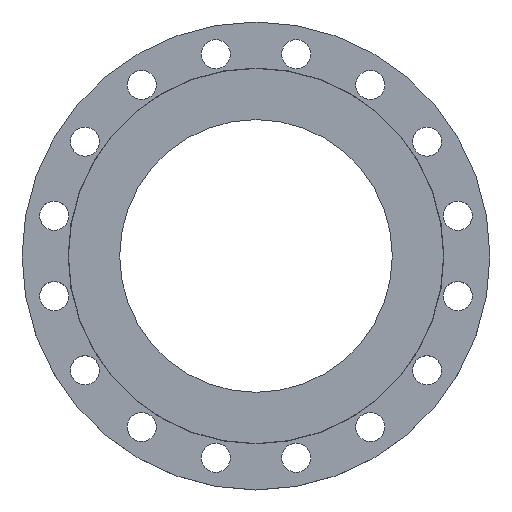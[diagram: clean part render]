
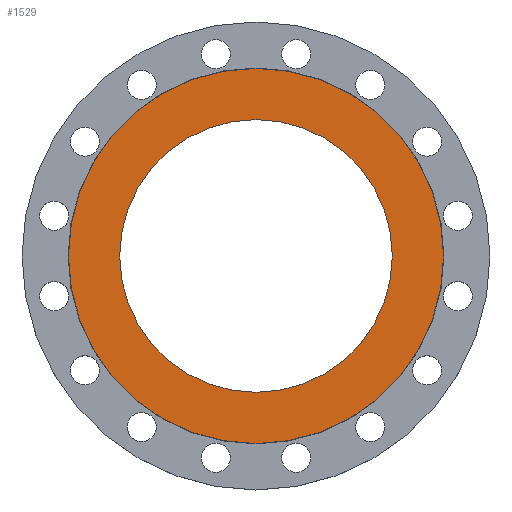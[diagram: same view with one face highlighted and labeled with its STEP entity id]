
A CAD part, top view. The second image highlights one B-rep face of the part: STEP entity #1529.
In plain terms, the highlighted planar face has unit normal (0, 0, 1).
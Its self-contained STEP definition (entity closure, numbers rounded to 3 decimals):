
#6 = DIRECTION ( 'NONE',  ( 1., 0., 0. ) ) ;
#9 = DIRECTION ( 'NONE',  ( 0., 0., 1. ) ) ;
#10 = CARTESIAN_POINT ( 'NONE',  ( 0., 0., 0. ) ) ;
#11 = PLANE ( 'NONE',  #1262 ) ;
#12 = FACE_OUTER_BOUND ( 'NONE', #1091, .T. ) ;
#15 = FACE_BOUND ( 'NONE', #1357, .T. ) ;
#34 = CARTESIAN_POINT ( 'NONE',  ( -232.5, 0., 0. ) ) ;
#41 = CARTESIAN_POINT ( 'NONE',  ( 169., 0., 0. ) ) ;
#75 = EDGE_CURVE ( 'NONE', #1477, #1212, #1118, .T. ) ;
#81 = DIRECTION ( 'NONE',  ( -1., 0., 0. ) ) ;
#84 = DIRECTION ( 'NONE',  ( 0., 0., -1. ) ) ;
#85 = CARTESIAN_POINT ( 'NONE',  ( 232.5, 0., 0. ) ) ;
#87 = CARTESIAN_POINT ( 'NONE',  ( 0., 0., 0. ) ) ;
#244 = CARTESIAN_POINT ( 'NONE',  ( -169., 0., 0. ) ) ;
#282 = EDGE_CURVE ( 'NONE', #1212, #1477, #713, .T. ) ;
#369 = AXIS2_PLACEMENT_3D ( 'NONE', #752, #751, #748 ) ;
#434 = EDGE_CURVE ( 'NONE', #1451, #1494, #536, .T. ) ;
#536 = CIRCLE ( 'NONE', #369, 232.5 ) ;
#555 = CIRCLE ( 'NONE', #1149, 232.5 ) ;
#623 = AXIS2_PLACEMENT_3D ( 'NONE', #948, #947, #946 ) ;
#694 = AXIS2_PLACEMENT_3D ( 'NONE', #833, #832, #831 ) ;
#713 = CIRCLE ( 'NONE', #694, 169. ) ;
#748 = DIRECTION ( 'NONE',  ( -1., 0., 0. ) ) ;
#751 = DIRECTION ( 'NONE',  ( 0., 0., -1. ) ) ;
#752 = CARTESIAN_POINT ( 'NONE',  ( 0., 0., 0. ) ) ;
#831 = DIRECTION ( 'NONE',  ( 1., 0., 0. ) ) ;
#832 = DIRECTION ( 'NONE',  ( 0., 0., 1. ) ) ;
#833 = CARTESIAN_POINT ( 'NONE',  ( 0., 0., 0. ) ) ;
#946 = DIRECTION ( 'NONE',  ( 1., 0., 0. ) ) ;
#947 = DIRECTION ( 'NONE',  ( 0., 0., 1. ) ) ;
#948 = CARTESIAN_POINT ( 'NONE',  ( 0., 0., 0. ) ) ;
#1053 = ORIENTED_EDGE ( 'NONE', *, *, #434, .F. ) ;
#1056 = ORIENTED_EDGE ( 'NONE', *, *, #1362, .F. ) ;
#1091 = EDGE_LOOP ( 'NONE', ( #1056, #1053 ) ) ;
#1118 = CIRCLE ( 'NONE', #623, 169. ) ;
#1149 = AXIS2_PLACEMENT_3D ( 'NONE', #87, #84, #81 ) ;
#1212 = VERTEX_POINT ( 'NONE', #244 ) ;
#1262 = AXIS2_PLACEMENT_3D ( 'NONE', #10, #9, #6 ) ;
#1357 = EDGE_LOOP ( 'NONE', ( #1395, #1394 ) ) ;
#1362 = EDGE_CURVE ( 'NONE', #1494, #1451, #555, .T. ) ;
#1394 = ORIENTED_EDGE ( 'NONE', *, *, #282, .F. ) ;
#1395 = ORIENTED_EDGE ( 'NONE', *, *, #75, .F. ) ;
#1451 = VERTEX_POINT ( 'NONE', #85 ) ;
#1477 = VERTEX_POINT ( 'NONE', #41 ) ;
#1494 = VERTEX_POINT ( 'NONE', #34 ) ;
#1529 = ADVANCED_FACE ( 'NONE', ( #15, #12 ), #11, .T. ) ;
